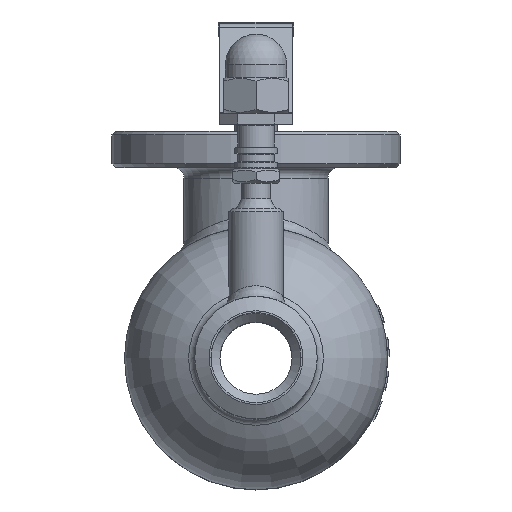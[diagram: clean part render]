
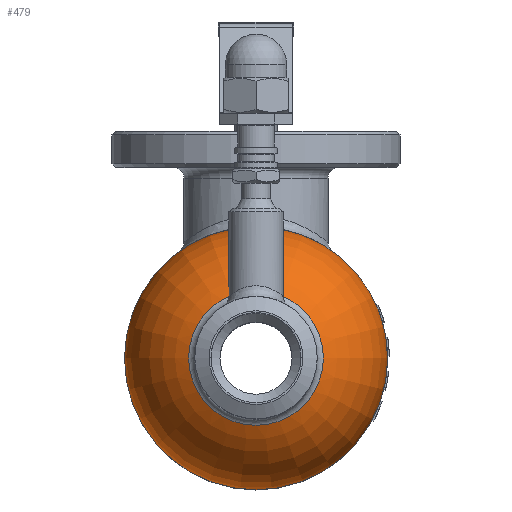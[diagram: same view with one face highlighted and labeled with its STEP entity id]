
A CAD part, top view. The second image highlights one B-rep face of the part: STEP entity #479.
In plain terms, the highlighted toroidal (fillet/blend) face has major radius 5.186 mm and minor radius 31.314 mm.
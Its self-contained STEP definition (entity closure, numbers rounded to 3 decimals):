
#479=ADVANCED_FACE('',(#2793,#2795),#2797,.T.);
#2793=FACE_OUTER_BOUND('',#2794,.T.);
#2794=EDGE_LOOP('',(#24975));
#2795=FACE_BOUND('',#2796,.T.);
#2796=EDGE_LOOP('',(#24976,#24977));
#2797=DEGENERATE_TOROIDAL_SURFACE('',#2798,5.186,31.314,.T.);
#2798=AXIS2_PLACEMENT_3D('',#2799,#2800,#2801);
#2799=CARTESIAN_POINT('',(0.,0.,28.5));
#2800=DIRECTION('',(0.,0.,1.));
#2801=DIRECTION('',(1.,0.,0.));
#24975=ORIENTED_EDGE('',*,*,#31067,.T.);
#24976=ORIENTED_EDGE('',*,*,#31350,.T.);
#24977=ORIENTED_EDGE('',*,*,#31351,.T.);
#31067=EDGE_CURVE('',#33511,#33511,#33512,.T.);
#31350=EDGE_CURVE('',#34077,#34078,#34079,.T.);
#31351=EDGE_CURVE('',#34078,#34077,#34080,.T.);
#33511=VERTEX_POINT('',#43788);
#33512=CIRCLE('',#43789,36.5);
#34077=VERTEX_POINT('',#52932);
#34078=VERTEX_POINT('',#52933);
#34079=CIRCLE('',#52934,18.705);
#34080=CIRCLE('',#52938,18.705);
#43788=CARTESIAN_POINT('',(36.5,0.,28.5));
#43789=AXIS2_PLACEMENT_3D('',#43790,#43791,#43792);
#43790=CARTESIAN_POINT('',(0.,0.,28.5));
#43791=DIRECTION('',(0.,0.,1.));
#43792=DIRECTION('',(1.,0.,0.));
#52932=CARTESIAN_POINT('',(18.705,0.,56.746));
#52933=CARTESIAN_POINT('',(-18.705,0.,56.746));
#52934=AXIS2_PLACEMENT_3D('',#52935,#52936,#52937);
#52935=CARTESIAN_POINT('',(0.,0.,56.746));
#52936=DIRECTION('',(0.,0.,-1.));
#52937=DIRECTION('',(1.,0.,0.));
#52938=AXIS2_PLACEMENT_3D('',#52939,#52940,#52941);
#52939=CARTESIAN_POINT('',(0.,0.,56.746));
#52940=DIRECTION('',(0.,0.,-1.));
#52941=DIRECTION('',(-1.,0.,0.));
